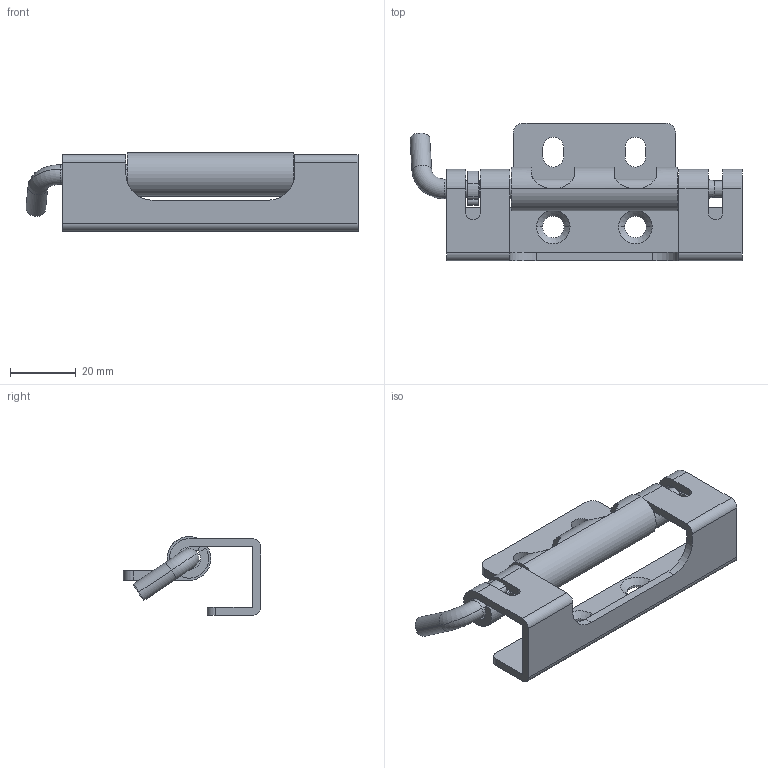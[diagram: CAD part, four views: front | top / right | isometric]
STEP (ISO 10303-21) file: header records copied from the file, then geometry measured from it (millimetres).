
FILE_DESCRIPTION (( 'STEP AP203' ), '1' );
FILE_NAME ('20210806-01.STEP', '2021-08-06T00:12:56', ( '曹' ), ( '' ), 'SwSTEP 2.0', 'SolidWorks 2008', '' );
FILE_SCHEMA (( 'CONFIG_CONTROL_DESIGN' ));
Length unit declared in the file: millimetre
Products named in the file (5): A-73-02_預設; A-73-01_預設; 20210806-01; A-73-03_預設; A-73-04_預設
Assembly tree (4 placements, depth 2):
  20210806-01
    A-73-03_預設
    A-73-04_預設
    A-73-01_預設
    A-73-02_預設
Bounding box: 100.96 x 41.8 x 23.95 mm (x, y, z)
Volume: 18997.7 mm3; surface area: 16615.9 mm2
Topology: 4 solids, 4 shells, 143 faces, 372 edges, 234 vertices
Faces by surface type: cylinder 68, plane 57, cone 12, bspline 4, torus 2
Entity records: 5421 total; most frequent: CARTESIAN_POINT 1372, DIRECTION 760, ORIENTED_EDGE 736, EDGE_CURVE 368, AXIS2_PLACEMENT_3D 278, VERTEX_POINT 234, VECTOR 204, LINE 204
